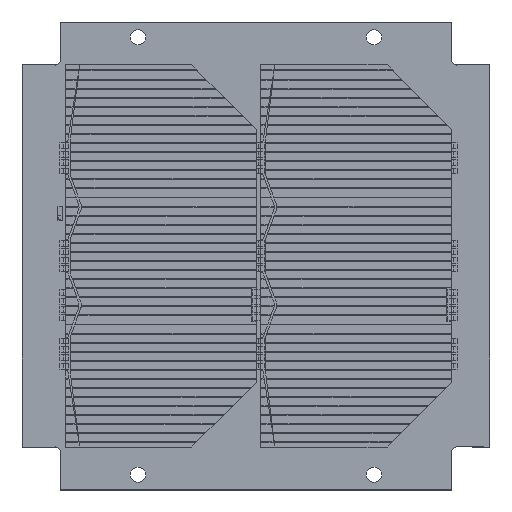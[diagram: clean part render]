
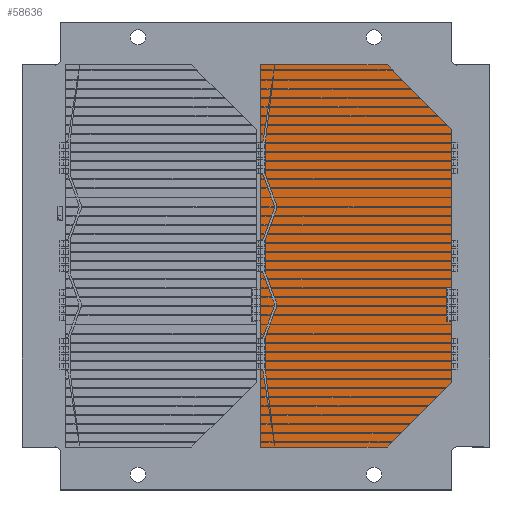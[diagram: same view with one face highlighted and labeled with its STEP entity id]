
A CAD part, top view. The second image highlights one B-rep face of the part: STEP entity #58636.
In plain terms, the highlighted planar face has unit normal (0, 0, 1).
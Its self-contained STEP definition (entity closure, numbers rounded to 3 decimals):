
#58165 = EDGE_CURVE('',#58166,#58168,#58170,.T.);
#58166 = VERTEX_POINT('',#58167);
#58167 = CARTESIAN_POINT('',(-20.,-23.797,0.15));
#58168 = VERTEX_POINT('',#58169);
#58169 = CARTESIAN_POINT('',(-20.,2.703,0.15));
#58170 = SURFACE_CURVE('',#58171,(#58175,#58187),.PCURVE_S1.);
#58171 = LINE('',#58172,#58173);
#58172 = CARTESIAN_POINT('',(-20.,-23.797,0.15));
#58173 = VECTOR('',#58174,1.);
#58174 = DIRECTION('',(0.,1.,0.));
#58175 = PCURVE('',#58176,#58181);
#58176 = PLANE('',#58177);
#58177 = AXIS2_PLACEMENT_3D('',#58178,#58179,#58180);
#58178 = CARTESIAN_POINT('',(-20.,-23.797,0.));
#58179 = DIRECTION('',(-1.,0.,0.));
#58180 = DIRECTION('',(0.,0.,1.));
#58181 = DEFINITIONAL_REPRESENTATION('',(#58182),#58186);
#58182 = LINE('',#58183,#58184);
#58183 = CARTESIAN_POINT('',(0.15,0.));
#58184 = VECTOR('',#58185,1.);
#58185 = DIRECTION('',(0.,1.));
#58186 = ( GEOMETRIC_REPRESENTATION_CONTEXT(2) 
PARAMETRIC_REPRESENTATION_CONTEXT() REPRESENTATION_CONTEXT('2D SPACE',''
  ) );
#58187 = PCURVE('',#58188,#58193);
#58188 = PLANE('',#58189);
#58189 = AXIS2_PLACEMENT_3D('',#58190,#58191,#58192);
#58190 = CARTESIAN_POINT('',(20.,-5.545,0.15));
#58191 = DIRECTION('',(0.,0.,1.));
#58192 = DIRECTION('',(1.,0.,0.));
#58193 = DEFINITIONAL_REPRESENTATION('',(#58194),#58198);
#58194 = LINE('',#58195,#58196);
#58195 = CARTESIAN_POINT('',(-40.,-18.252));
#58196 = VECTOR('',#58197,1.);
#58197 = DIRECTION('',(0.,1.));
#58198 = ( GEOMETRIC_REPRESENTATION_CONTEXT(2) 
PARAMETRIC_REPRESENTATION_CONTEXT() REPRESENTATION_CONTEXT('2D SPACE',''
  ) );
#58216 = PLANE('',#58217);
#58217 = AXIS2_PLACEMENT_3D('',#58218,#58219,#58220);
#58218 = CARTESIAN_POINT('',(-20.,2.703,0.));
#58219 = DIRECTION('',(-0.707,0.707,0.));
#58220 = DIRECTION('',(0.,0.,1.));
#58270 = PLANE('',#58271);
#58271 = AXIS2_PLACEMENT_3D('',#58272,#58273,#58274);
#58272 = CARTESIAN_POINT('',(60.,-23.797,0.));
#58273 = DIRECTION('',(0.,-1.,0.));
#58274 = DIRECTION('',(0.,0.,-1.));
#58285 = EDGE_CURVE('',#58168,#58286,#58288,.T.);
#58286 = VERTEX_POINT('',#58287);
#58287 = CARTESIAN_POINT('',(-6.5,16.203,0.15));
#58288 = SURFACE_CURVE('',#58289,(#58293,#58300),.PCURVE_S1.);
#58289 = LINE('',#58290,#58291);
#58290 = CARTESIAN_POINT('',(-20.,2.703,0.15));
#58291 = VECTOR('',#58292,1.);
#58292 = DIRECTION('',(0.707,0.707,0.));
#58293 = PCURVE('',#58216,#58294);
#58294 = DEFINITIONAL_REPRESENTATION('',(#58295),#58299);
#58295 = LINE('',#58296,#58297);
#58296 = CARTESIAN_POINT('',(0.15,0.));
#58297 = VECTOR('',#58298,1.);
#58298 = DIRECTION('',(0.,1.));
#58299 = ( GEOMETRIC_REPRESENTATION_CONTEXT(2) 
PARAMETRIC_REPRESENTATION_CONTEXT() REPRESENTATION_CONTEXT('2D SPACE',''
  ) );
#58300 = PCURVE('',#58188,#58301);
#58301 = DEFINITIONAL_REPRESENTATION('',(#58302),#58306);
#58302 = LINE('',#58303,#58304);
#58303 = CARTESIAN_POINT('',(-40.,8.248));
#58304 = VECTOR('',#58305,1.);
#58305 = DIRECTION('',(0.707,0.707));
#58306 = ( GEOMETRIC_REPRESENTATION_CONTEXT(2) 
PARAMETRIC_REPRESENTATION_CONTEXT() REPRESENTATION_CONTEXT('2D SPACE',''
  ) );
#58324 = PLANE('',#58325);
#58325 = AXIS2_PLACEMENT_3D('',#58326,#58327,#58328);
#58326 = CARTESIAN_POINT('',(-6.5,16.203,0.));
#58327 = DIRECTION('',(0.,1.,0.));
#58328 = DIRECTION('',(0.,0.,1.));
#58361 = EDGE_CURVE('',#58286,#58362,#58364,.T.);
#58362 = VERTEX_POINT('',#58363);
#58363 = CARTESIAN_POINT('',(46.5,16.203,0.15));
#58364 = SURFACE_CURVE('',#58365,(#58369,#58376),.PCURVE_S1.);
#58365 = LINE('',#58366,#58367);
#58366 = CARTESIAN_POINT('',(-6.5,16.203,0.15));
#58367 = VECTOR('',#58368,1.);
#58368 = DIRECTION('',(1.,0.,0.));
#58369 = PCURVE('',#58324,#58370);
#58370 = DEFINITIONAL_REPRESENTATION('',(#58371),#58375);
#58371 = LINE('',#58372,#58373);
#58372 = CARTESIAN_POINT('',(0.15,0.));
#58373 = VECTOR('',#58374,1.);
#58374 = DIRECTION('',(0.,1.));
#58375 = ( GEOMETRIC_REPRESENTATION_CONTEXT(2) 
PARAMETRIC_REPRESENTATION_CONTEXT() REPRESENTATION_CONTEXT('2D SPACE',''
  ) );
#58376 = PCURVE('',#58188,#58377);
#58377 = DEFINITIONAL_REPRESENTATION('',(#58378),#58382);
#58378 = LINE('',#58379,#58380);
#58379 = CARTESIAN_POINT('',(-26.5,21.748));
#58380 = VECTOR('',#58381,1.);
#58381 = DIRECTION('',(1.,0.));
#58382 = ( GEOMETRIC_REPRESENTATION_CONTEXT(2) 
PARAMETRIC_REPRESENTATION_CONTEXT() REPRESENTATION_CONTEXT('2D SPACE',''
  ) );
#58400 = PLANE('',#58401);
#58401 = AXIS2_PLACEMENT_3D('',#58402,#58403,#58404);
#58402 = CARTESIAN_POINT('',(46.5,16.203,0.));
#58403 = DIRECTION('',(0.707,0.707,0.));
#58404 = DIRECTION('',(0.,0.,-1.));
#58437 = EDGE_CURVE('',#58362,#58438,#58440,.T.);
#58438 = VERTEX_POINT('',#58439);
#58439 = CARTESIAN_POINT('',(60.,2.703,0.15));
#58440 = SURFACE_CURVE('',#58441,(#58445,#58452),.PCURVE_S1.);
#58441 = LINE('',#58442,#58443);
#58442 = CARTESIAN_POINT('',(46.5,16.203,0.15));
#58443 = VECTOR('',#58444,1.);
#58444 = DIRECTION('',(0.707,-0.707,0.));
#58445 = PCURVE('',#58400,#58446);
#58446 = DEFINITIONAL_REPRESENTATION('',(#58447),#58451);
#58447 = LINE('',#58448,#58449);
#58448 = CARTESIAN_POINT('',(-0.15,0.));
#58449 = VECTOR('',#58450,1.);
#58450 = DIRECTION('',(0.,-1.));
#58451 = ( GEOMETRIC_REPRESENTATION_CONTEXT(2) 
PARAMETRIC_REPRESENTATION_CONTEXT() REPRESENTATION_CONTEXT('2D SPACE',''
  ) );
#58452 = PCURVE('',#58188,#58453);
#58453 = DEFINITIONAL_REPRESENTATION('',(#58454),#58458);
#58454 = LINE('',#58455,#58456);
#58455 = CARTESIAN_POINT('',(26.5,21.748));
#58456 = VECTOR('',#58457,1.);
#58457 = DIRECTION('',(0.707,-0.707));
#58458 = ( GEOMETRIC_REPRESENTATION_CONTEXT(2) 
PARAMETRIC_REPRESENTATION_CONTEXT() REPRESENTATION_CONTEXT('2D SPACE',''
  ) );
#58476 = PLANE('',#58477);
#58477 = AXIS2_PLACEMENT_3D('',#58478,#58479,#58480);
#58478 = CARTESIAN_POINT('',(60.,2.703,0.));
#58479 = DIRECTION('',(1.,0.,0.));
#58480 = DIRECTION('',(0.,0.,-1.));
#58513 = EDGE_CURVE('',#58438,#58514,#58516,.T.);
#58514 = VERTEX_POINT('',#58515);
#58515 = CARTESIAN_POINT('',(60.,-23.797,0.15));
#58516 = SURFACE_CURVE('',#58517,(#58521,#58528),.PCURVE_S1.);
#58517 = LINE('',#58518,#58519);
#58518 = CARTESIAN_POINT('',(60.,2.703,0.15));
#58519 = VECTOR('',#58520,1.);
#58520 = DIRECTION('',(0.,-1.,0.));
#58521 = PCURVE('',#58476,#58522);
#58522 = DEFINITIONAL_REPRESENTATION('',(#58523),#58527);
#58523 = LINE('',#58524,#58525);
#58524 = CARTESIAN_POINT('',(-0.15,0.));
#58525 = VECTOR('',#58526,1.);
#58526 = DIRECTION('',(0.,-1.));
#58527 = ( GEOMETRIC_REPRESENTATION_CONTEXT(2) 
PARAMETRIC_REPRESENTATION_CONTEXT() REPRESENTATION_CONTEXT('2D SPACE',''
  ) );
#58528 = PCURVE('',#58188,#58529);
#58529 = DEFINITIONAL_REPRESENTATION('',(#58530),#58534);
#58530 = LINE('',#58531,#58532);
#58531 = CARTESIAN_POINT('',(40.,8.248));
#58532 = VECTOR('',#58533,1.);
#58533 = DIRECTION('',(0.,-1.));
#58534 = ( GEOMETRIC_REPRESENTATION_CONTEXT(2) 
PARAMETRIC_REPRESENTATION_CONTEXT() REPRESENTATION_CONTEXT('2D SPACE',''
  ) );
#58584 = EDGE_CURVE('',#58514,#58166,#58585,.T.);
#58585 = SURFACE_CURVE('',#58586,(#58590,#58597),.PCURVE_S1.);
#58586 = LINE('',#58587,#58588);
#58587 = CARTESIAN_POINT('',(60.,-23.797,0.15));
#58588 = VECTOR('',#58589,1.);
#58589 = DIRECTION('',(-1.,0.,0.));
#58590 = PCURVE('',#58270,#58591);
#58591 = DEFINITIONAL_REPRESENTATION('',(#58592),#58596);
#58592 = LINE('',#58593,#58594);
#58593 = CARTESIAN_POINT('',(-0.15,0.));
#58594 = VECTOR('',#58595,1.);
#58595 = DIRECTION('',(0.,-1.));
#58596 = ( GEOMETRIC_REPRESENTATION_CONTEXT(2) 
PARAMETRIC_REPRESENTATION_CONTEXT() REPRESENTATION_CONTEXT('2D SPACE',''
  ) );
#58597 = PCURVE('',#58188,#58598);
#58598 = DEFINITIONAL_REPRESENTATION('',(#58599),#58603);
#58599 = LINE('',#58600,#58601);
#58600 = CARTESIAN_POINT('',(40.,-18.252));
#58601 = VECTOR('',#58602,1.);
#58602 = DIRECTION('',(-1.,0.));
#58603 = ( GEOMETRIC_REPRESENTATION_CONTEXT(2) 
PARAMETRIC_REPRESENTATION_CONTEXT() REPRESENTATION_CONTEXT('2D SPACE',''
  ) );
#58636 = ADVANCED_FACE('',(#58637),#58188,.T.);
#58637 = FACE_BOUND('',#58638,.T.);
#58638 = EDGE_LOOP('',(#58639,#58640,#58641,#58642,#58643,#58644));
#58639 = ORIENTED_EDGE('',*,*,#58165,.F.);
#58640 = ORIENTED_EDGE('',*,*,#58584,.F.);
#58641 = ORIENTED_EDGE('',*,*,#58513,.F.);
#58642 = ORIENTED_EDGE('',*,*,#58437,.F.);
#58643 = ORIENTED_EDGE('',*,*,#58361,.F.);
#58644 = ORIENTED_EDGE('',*,*,#58285,.F.);
